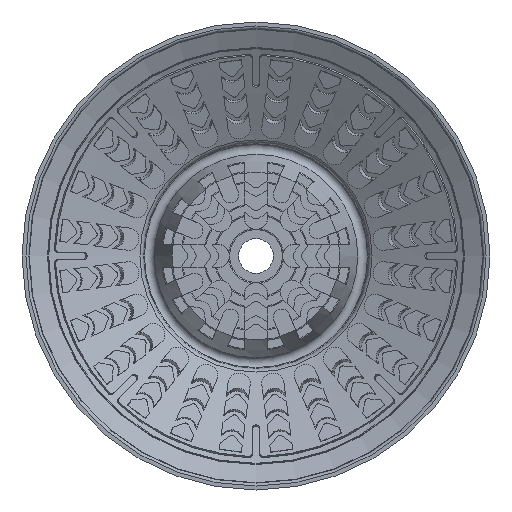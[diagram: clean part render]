
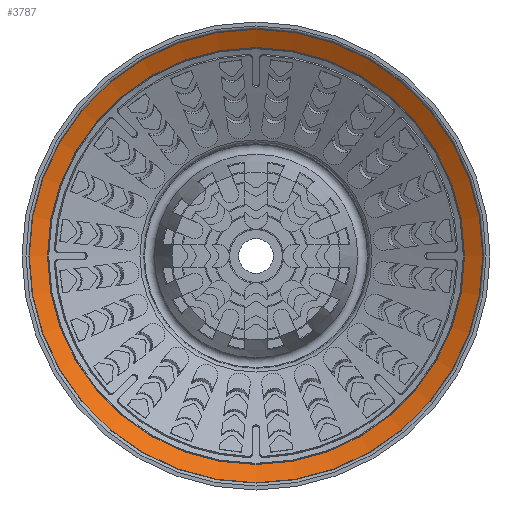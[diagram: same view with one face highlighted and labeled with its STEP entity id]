
A CAD part, front view. The second image highlights one B-rep face of the part: STEP entity #3787.
In plain terms, the highlighted conical face has half-angle 60.762 degrees and reference radius 39.945 mm.
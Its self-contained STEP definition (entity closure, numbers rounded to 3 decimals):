
#466 = DIRECTION ( 'NONE',  ( -1., 0., 0. ) ) ;
#2897 = ORIENTED_EDGE ( 'NONE', *, *, #22984, .T. ) ;
#3787 = ADVANCED_FACE ( 'NONE', ( #11072, #10264 ), #11166, .F. ) ;
#8200 = CARTESIAN_POINT ( 'NONE',  ( -36.727, 2.495, 0. ) ) ;
#10264 = FACE_OUTER_BOUND ( 'NONE', #21078, .T. ) ;
#11072 = FACE_BOUND ( 'NONE', #36995, .T. ) ;
#11166 = CONICAL_SURFACE ( 'NONE', #31950, 39.945, 1.06 ) ;
#14391 = CIRCLE ( 'NONE', #47228, 39.945 ) ;
#17805 = CARTESIAN_POINT ( 'NONE',  ( 0., 0.694, 0. ) ) ;
#21078 = EDGE_LOOP ( 'NONE', ( #29058 ) ) ;
#22719 = DIRECTION ( 'NONE',  ( 1., 0., 0. ) ) ;
#22984 = EDGE_CURVE ( 'NONE', #28769, #28769, #41723, .T. ) ;
#24829 = CARTESIAN_POINT ( 'NONE',  ( 0., 2.495, 0. ) ) ;
#27325 = CARTESIAN_POINT ( 'NONE',  ( 0., 0.694, 0. ) ) ;
#28769 = VERTEX_POINT ( 'NONE', #8200 ) ;
#29058 = ORIENTED_EDGE ( 'NONE', *, *, #39032, .F. ) ;
#29665 = DIRECTION ( 'NONE',  ( 0., 1., 0. ) ) ;
#31950 = AXIS2_PLACEMENT_3D ( 'NONE', #27325, #35452, #22719 ) ;
#34353 = DIRECTION ( 'NONE',  ( 0., 1., 0. ) ) ;
#34612 = DIRECTION ( 'NONE',  ( -1., 0., 0. ) ) ;
#35452 = DIRECTION ( 'NONE',  ( 0., -1., 0. ) ) ;
#36097 = VERTEX_POINT ( 'NONE', #41223 ) ;
#36995 = EDGE_LOOP ( 'NONE', ( #2897 ) ) ;
#39032 = EDGE_CURVE ( 'NONE', #36097, #36097, #14391, .T. ) ;
#41223 = CARTESIAN_POINT ( 'NONE',  ( -39.945, 0.694, 0. ) ) ;
#41723 = CIRCLE ( 'NONE', #43459, 36.727 ) ;
#43459 = AXIS2_PLACEMENT_3D ( 'NONE', #24829, #29665, #466 ) ;
#47228 = AXIS2_PLACEMENT_3D ( 'NONE', #17805, #34353, #34612 ) ;
